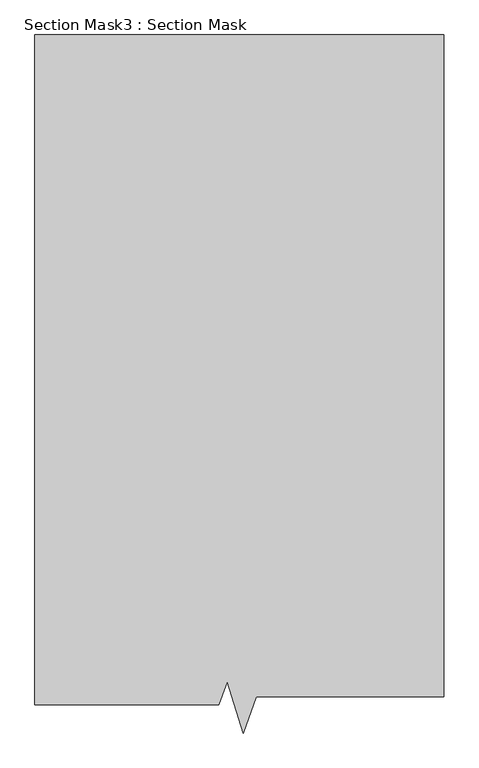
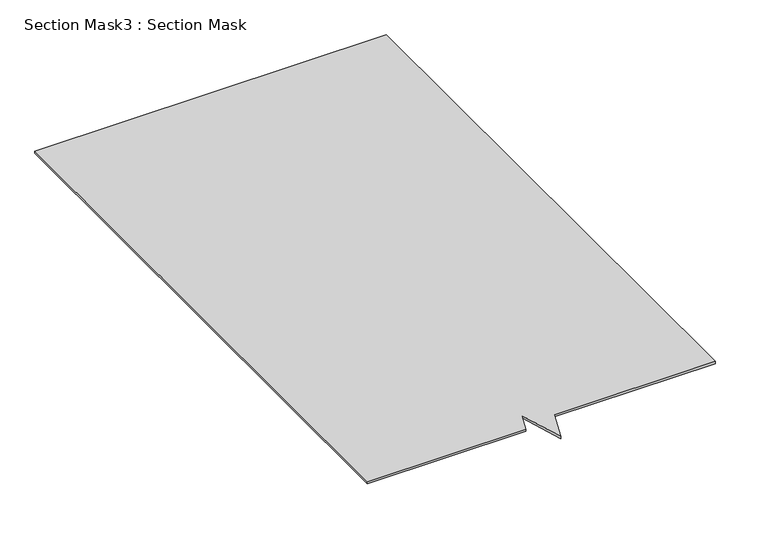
"""IFC4 building model written with IfcOpenShell, lengths in millimetres: proxy geometry, Section Mask3 : Section Mask."""

from ifc_helpers import new_model, si_unit, frame, origin, place, context, project, spatial, polyline, outline, extrude, source, transform, mapped, element, save


def section_mask3_section_mask_4427abd5(model_context):
    return source(origin(), model_context, "Body", "SweptSolid", [
        extrude(outline(polyline([(8137.364325, 612.223934), (7633.1736421, 612.223934), (7633.1736421, 2446.4114947), (8752.9802012, 2446.4114947), (8752.9802012, 633.0724056), (8239.9982256, 633.0724056), (8203.3813689, 533.9095639), (8160.3812645, 674.5565681), (8137.364325, 612.223934)])), frame((0.0, 0.0, 45.0273345), z_axis=(0.0, 0.0, 1.0), x_axis=(1.0, 0.0, 0.0)), (0.0, 0.0, 1.0), 7.2631445),
    ])


if __name__ == "__main__":
    model = new_model("IFC4")
    model_context = context("Model", 3, world=origin())
    ifc_project = project(units=[si_unit("LENGTHUNIT", "METRE", prefix="MILLI")], contexts=[model_context])
    site = spatial("IfcSite", under=ifc_project)
    building = spatial("IfcBuilding", under=site)
    placement = place(None, origin())
    section_mask3_section_mask_shape = section_mask3_section_mask_4427abd5(model_context)
    element("IfcBuildingElementProxy", 1, Name="Section Mask3 : Section Mask", ObjectType="Section Mask3 : Section Mask", at=placement, inside=building, context=model_context, shape_type="MappedRepresentation", body=[
        mapped(section_mask3_section_mask_shape, transform((0.0, 0.0, 0.0), x_axis=(1.0, 0.0, 0.0), y_axis=(0.0, 1.0, 0.0), z_axis=(0.0, 0.0, 1.0))),
    ])
    save(model, "model.ifc")
